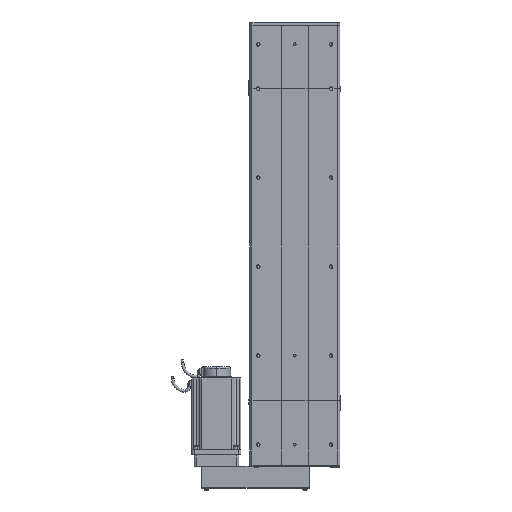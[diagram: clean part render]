
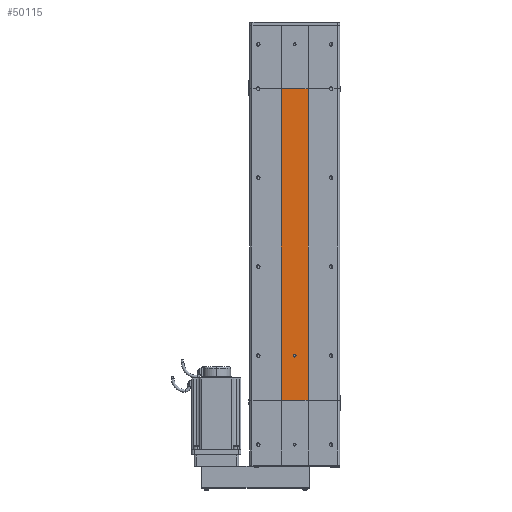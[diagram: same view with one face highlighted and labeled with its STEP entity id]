
A CAD part, front view. The second image highlights one B-rep face of the part: STEP entity #50115.
In plain terms, the highlighted planar face has unit normal (0, -1, 0).
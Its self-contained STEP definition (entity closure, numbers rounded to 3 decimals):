
#30384 = CARTESIAN_POINT ( 'NONE',  ( 0., -32.5, 103. ) ) ;
#31916 = AXIS2_PLACEMENT_3D ( 'NONE', #31918, #32191, #32189 ) ;
#31917 = CARTESIAN_POINT ( 'NONE',  ( 0., -32.5, 97. ) ) ;
#31918 = CARTESIAN_POINT ( 'NONE',  ( 0., -32.5, 100. ) ) ;
#32003 = CARTESIAN_POINT ( 'NONE',  ( -30., -32.5, 700. ) ) ;
#32059 = VECTOR ( 'NONE', #32076, 1000. ) ;
#32061 = CARTESIAN_POINT ( 'NONE',  ( 30., -32.5, 700. ) ) ;
#32076 = DIRECTION ( 'NONE',  ( -1., 0., 0. ) ) ;
#32077 = CARTESIAN_POINT ( 'NONE',  ( -30., -32.5, 700. ) ) ;
#32189 = DIRECTION ( 'NONE',  ( 0., 0., -1. ) ) ;
#32191 = DIRECTION ( 'NONE',  ( 0., -1., 0. ) ) ;
#32196 = CIRCLE ( 'NONE', #31916, 3. ) ;
#32201 = LINE ( 'NONE', #32077, #32059 ) ;
#36371 = CARTESIAN_POINT ( 'NONE',  ( -30., -32.5, 0. ) ) ;
#36877 = DIRECTION ( 'NONE',  ( 0., 0., 1. ) ) ;
#36886 = AXIS2_PLACEMENT_3D ( 'NONE', #36909, #36902, #36877 ) ;
#36893 = DIRECTION ( 'NONE',  ( 0., 0., 1. ) ) ;
#36894 = VECTOR ( 'NONE', #36893, 1000. ) ;
#36895 = CARTESIAN_POINT ( 'NONE',  ( -30., -32.5, 0. ) ) ;
#36896 = LINE ( 'NONE', #36895, #36894 ) ;
#36902 = DIRECTION ( 'NONE',  ( 0., 1., 0. ) ) ;
#36903 = FACE_BOUND ( 'NONE', #50117, .T. ) ;
#36909 = CARTESIAN_POINT ( 'NONE',  ( -30., -32.5, 0. ) ) ;
#36915 = FACE_OUTER_BOUND ( 'NONE', #50113, .T. ) ;
#37253 = PLANE ( 'NONE',  #36886 ) ;
#37454 = DIRECTION ( 'NONE',  ( -1., 0., 0. ) ) ;
#37455 = VECTOR ( 'NONE', #37454, 1000. ) ;
#37457 = CARTESIAN_POINT ( 'NONE',  ( -30., -32.5, 0. ) ) ;
#37475 = CARTESIAN_POINT ( 'NONE',  ( 30., -32.5, 0. ) ) ;
#37556 = CIRCLE ( 'NONE', #37665, 3. ) ;
#37606 = DIRECTION ( 'NONE',  ( 0., 0., -1. ) ) ;
#37664 = DIRECTION ( 'NONE',  ( 0., -1., 0. ) ) ;
#37665 = AXIS2_PLACEMENT_3D ( 'NONE', #37748, #37664, #37606 ) ;
#37695 = LINE ( 'NONE', #37457, #37455 ) ;
#37748 = CARTESIAN_POINT ( 'NONE',  ( 0., -32.5, 100. ) ) ;
#45671 = DIRECTION ( 'NONE',  ( 0., 0., 1. ) ) ;
#45672 = CARTESIAN_POINT ( 'NONE',  ( 30., -32.5, 0. ) ) ;
#45689 = LINE ( 'NONE', #45672, #45828 ) ;
#45828 = VECTOR ( 'NONE', #45671, 1000. ) ;
#48637 = VERTEX_POINT ( 'NONE', #30384 ) ;
#48908 = VERTEX_POINT ( 'NONE', #32003 ) ;
#48920 = VERTEX_POINT ( 'NONE', #31917 ) ;
#48922 = EDGE_CURVE ( 'NONE', #48637, #48920, #32196, .T. ) ;
#48951 = EDGE_CURVE ( 'NONE', #48952, #48908, #32201, .T. ) ;
#48952 = VERTEX_POINT ( 'NONE', #32061 ) ;
#49842 = VERTEX_POINT ( 'NONE', #36371 ) ;
#49930 = EDGE_CURVE ( 'NONE', #50192, #48952, #45689, .T. ) ;
#50111 = ORIENTED_EDGE ( 'NONE', *, *, #50201, .F. ) ;
#50112 = EDGE_CURVE ( 'NONE', #49842, #48908, #36896, .T. ) ;
#50113 = EDGE_LOOP ( 'NONE', ( #50176, #50175, #50111, #50114 ) ) ;
#50114 = ORIENTED_EDGE ( 'NONE', *, *, #49930, .T. ) ;
#50115 = ADVANCED_FACE ( 'NONE', ( #36903, #36915 ), #37253, .F. ) ;
#50117 = EDGE_LOOP ( 'NONE', ( #50152, #50151 ) ) ;
#50118 = EDGE_CURVE ( 'NONE', #48920, #48637, #37556, .T. ) ;
#50151 = ORIENTED_EDGE ( 'NONE', *, *, #48922, .F. ) ;
#50152 = ORIENTED_EDGE ( 'NONE', *, *, #50118, .F. ) ;
#50175 = ORIENTED_EDGE ( 'NONE', *, *, #50112, .F. ) ;
#50176 = ORIENTED_EDGE ( 'NONE', *, *, #48951, .T. ) ;
#50192 = VERTEX_POINT ( 'NONE', #37475 ) ;
#50201 = EDGE_CURVE ( 'NONE', #50192, #49842, #37695, .T. ) ;
